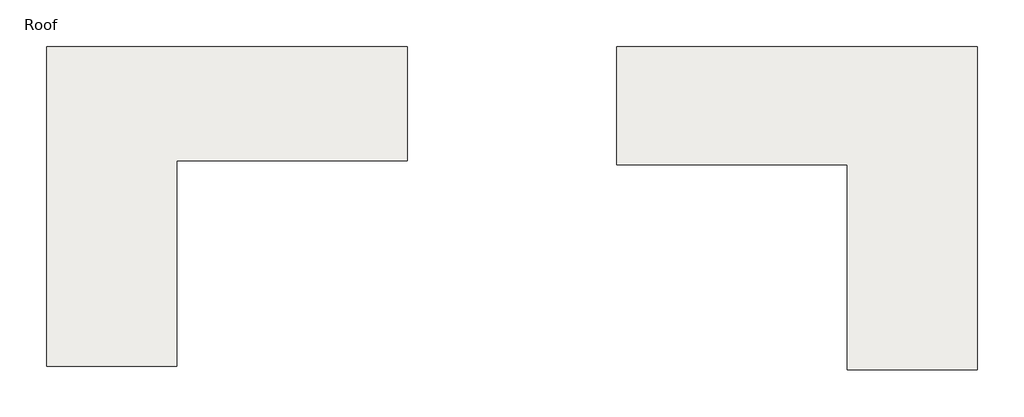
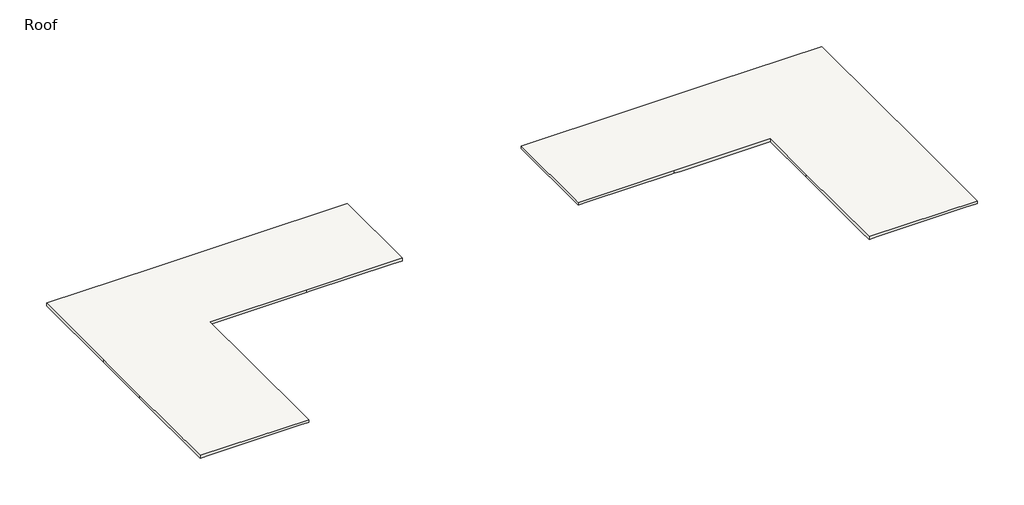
# One storey: 2 slabs.
"""IFC4 building model written with IfcOpenShell, lengths in millimetres."""

from ifc_helpers import new_model, si_unit, origin, place, context, project, spatial, faceted_brep, element, save

model = new_model("IFC4")

# Units and contexts
model_context = context("Model", 3, world=origin())
ifc_project = project(units=[si_unit("LENGTHUNIT", "METRE", prefix="MILLI")], contexts=[model_context])

# Site, building, storey
site = spatial("IfcSite", under=ifc_project)
building = spatial("IfcBuilding", under=site)
storey = spatial("IfcBuildingStorey", under=building, Name="Roof", Elevation=7315.2)

# Slabs
placement = place(None, origin())
element("IfcSlab", 1, ObjectType="3\" LW Concrete on 2\" Metal Deck", at=placement, inside=storey, context=model_context, shape_type="Brep", body=[
    faceted_brep([(-16327.1781752, 17103.3470864, 7315.2), (-16327.1781752, 17712.9470864, 7315.2), (-16327.1781752, 21065.7470864, 7315.2), (-16327.1781752, 21675.3470864, 7315.2), (-15869.9781752, 21675.3470864, 7315.2), (-12059.9781752, 21675.3470864, 7315.2), (-11602.7781752, 21675.3470864, 7315.2), (-11500.8917982, 21675.3470864, 7315.2), (-7487.9781752, 21675.3470864, 7315.2), (-7337.9512179, 21675.3470864, 7315.2), (-7030.7781752, 21675.3470864, 7315.2), (-2915.9781752, 21675.3470864, 7315.2), (-2458.7781752, 21675.3470864, 7315.2), (-2382.5781752, 21675.3470864, 7315.2), (-2382.5781752, 17107.3073578, 7315.2), (-2382.5781752, 14203.6458879, 7315.2), (-2382.5781752, 9178.5470864, 7315.2), (-2458.7781752, 9178.5470864, 7315.2), (-2915.9781752, 9178.5470864, 7315.2), (-7030.7781752, 9178.5470864, 7315.2), (-7411.7781752, 9178.5470864, 7315.2), (-7411.7781752, 9788.1470864, 7315.2), (-7411.7781752, 13750.5470864, 7315.2), (-7411.7781752, 14211.6122361, 7315.2), (-7411.7781752, 14360.1470864, 7315.2), (-7411.7781752, 17103.3470864, 7315.2), (-7487.9781752, 17103.3470864, 7315.2), (-11602.7781752, 17103.3470864, 7315.2), (-11869.525863, 17103.3470864, 7315.2), (-12059.9781752, 17103.3470864, 7315.2), (-15869.9781752, 17103.3470864, 7315.2), (-16327.1781752, 17103.3470864, 7442.2), (-11869.525863, 17103.3470864, 7442.2), (-7411.7781752, 17103.3470864, 7442.2), (-7411.7781752, 14211.6122361, 7442.2), (-7411.7781752, 9178.5470864, 7442.2), (-2382.5781752, 9178.5470864, 7442.2), (-2382.5781752, 14203.6458879, 7442.2), (-2382.5781752, 17107.3073578, 7442.2), (-2382.5781752, 21675.3470864, 7442.2), (-7337.9512179, 21675.3470864, 7442.2), (-11500.8917982, 21675.3470864, 7442.2), (-16327.1781752, 21675.3470864, 7442.2)], [[[0, 1, 2, 3, 4, 5, 6, 7, 8, 9, 10, 11, 12, 13, 14, 15, 16, 17, 18, 19, 20, 21, 22, 23, 24, 25, 26, 27, 28, 29, 30]], [[31, 32, 33, 34, 35, 36, 37, 38, 39, 40, 41, 42]], [[3, 2, 1, 0, 31, 42]], [[7, 6, 5, 4, 3, 42, 41]], [[9, 8, 7, 41, 40]], [[13, 12, 11, 10, 9, 40, 39]], [[14, 13, 39, 38]], [[15, 14, 38, 37]], [[16, 15, 37, 36]], [[20, 19, 18, 17, 16, 36, 35]], [[23, 22, 21, 20, 35, 34]], [[25, 24, 23, 34, 33]], [[28, 27, 26, 25, 33, 32]], [[0, 30, 29, 28, 32, 31]]]),
])
element("IfcSlab", 2, ObjectType="3\" LW Concrete on 2\" Metal Deck", at=placement, inside=storey, context=model_context, shape_type="Brep", body=[
    faceted_brep([(-24404.3781752, 17255.7470864, 7315.2), (-24861.5781752, 17255.7470864, 7315.2), (-28671.5781752, 17255.7470864, 7315.2), (-28862.0304875, 17255.7470864, 7315.2), (-29128.7781752, 17255.7470864, 7315.2), (-33243.5781752, 17255.7470864, 7315.2), (-33319.7781752, 17255.7470864, 7315.2), (-33319.7781752, 17103.3470864, 7315.2), (-33319.7781752, 14360.1470864, 7315.2), (-33319.7781752, 14211.6122361, 7315.2), (-33319.7781752, 13750.5470864, 7315.2), (-33319.7781752, 9788.1470864, 7315.2), (-33319.7781752, 9330.9470864, 7315.2), (-33700.7781752, 9330.9470864, 7315.2), (-37815.5781752, 9330.9470864, 7315.2), (-38348.9781752, 9330.9470864, 7315.2), (-38348.9781752, 14203.6458879, 7315.2), (-38348.9781752, 17107.3073578, 7315.2), (-38348.9781752, 21667.2427877, 7315.2), (-33393.6051326, 21667.2427877, 7315.2), (-29230.6645523, 21667.2427877, 7315.2), (-24404.3781752, 21667.2427877, 7315.2), (-24404.3781752, 21065.7470864, 7315.2), (-24404.3781752, 17712.9470864, 7315.2), (-24404.3781752, 17255.7470864, 7442.2), (-24404.3781752, 21667.2427877, 7442.2), (-29230.6645523, 21667.2427877, 7442.2), (-33393.6051326, 21667.2427877, 7442.2), (-38348.9781752, 21667.2427877, 7442.2), (-38348.9781752, 17107.3073578, 7442.2), (-38348.9781752, 14203.6458879, 7442.2), (-38348.9781752, 9330.9470864, 7442.2), (-33319.7781752, 9330.9470864, 7442.2), (-33319.7781752, 14211.6122361, 7442.2), (-33319.7781752, 17255.7470864, 7442.2), (-28862.0304875, 17255.7470864, 7442.2)], [[[0, 1, 2, 3, 4, 5, 6, 7, 8, 9, 10, 11, 12, 13, 14, 15, 16, 17, 18, 19, 20, 21, 22, 23]], [[24, 25, 26, 27, 28, 29, 30, 31, 32, 33, 34, 35]], [[0, 23, 22, 21, 25, 24]], [[21, 20, 26, 25]], [[20, 19, 27, 26]], [[19, 18, 28, 27]], [[18, 17, 29, 28]], [[17, 16, 30, 29]], [[16, 15, 31, 30]], [[15, 14, 13, 12, 32, 31]], [[12, 11, 10, 9, 33, 32]], [[9, 8, 7, 6, 34, 33]], [[6, 5, 4, 3, 35, 34]], [[3, 2, 1, 0, 24, 35]]]),
])

save(model, "model.ifc")
